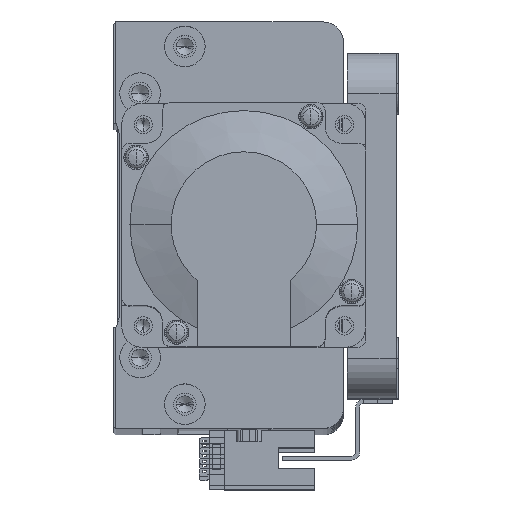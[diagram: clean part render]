
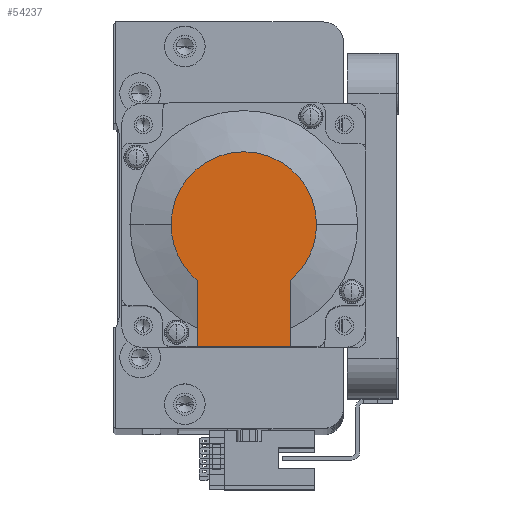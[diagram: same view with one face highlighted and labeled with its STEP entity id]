
A CAD part, top view. The second image highlights one B-rep face of the part: STEP entity #54237.
In plain terms, the highlighted planar face has unit normal (0, 0, 1) as drawn and (-1, 0, 0) by its records, which use the part's own axes.
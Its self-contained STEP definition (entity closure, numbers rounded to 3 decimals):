
#1490 = AXIS2_PLACEMENT_3D ( 'NONE', #38143, #12240, #42498 ) ;
#2588 = CARTESIAN_POINT ( 'NONE',  ( -118.5, -8.941, 0. ) ) ;
#4977 = AXIS2_PLACEMENT_3D ( 'NONE', #14697, #44942, #19008 ) ;
#5153 = EDGE_CURVE ( 'NONE', #52834, #41481, #51758, .T. ) ;
#5860 = CARTESIAN_POINT ( 'NONE',  ( -118.5, 13.735, -11.45 ) ) ;
#6161 = EDGE_CURVE ( 'NONE', #13470, #52834, #47053, .T. ) ;
#6966 = DIRECTION ( 'NONE',  ( 0., 0., 1. ) ) ;
#7502 = CIRCLE ( 'NONE', #1490, 17.881 ) ;
#7762 = CARTESIAN_POINT ( 'NONE',  ( -118.5, 0., 11.45 ) ) ;
#8131 = VECTOR ( 'NONE', #15049, 1000. ) ;
#11266 = EDGE_LOOP ( 'NONE', ( #19621, #49724, #48185, #24311, #19339, #23593 ) ) ;
#12240 = DIRECTION ( 'NONE',  ( -1., 0., 0. ) ) ;
#12566 = AXIS2_PLACEMENT_3D ( 'NONE', #2588, #32861, #6966 ) ;
#12797 = EDGE_CURVE ( 'NONE', #32671, #36151, #50518, .T. ) ;
#13470 = VERTEX_POINT ( 'NONE', #18932 ) ;
#14697 = CARTESIAN_POINT ( 'NONE',  ( -118.5, 0., 0. ) ) ;
#14759 = EDGE_CURVE ( 'NONE', #13470, #32671, #32533, .T. ) ;
#14869 = CIRCLE ( 'NONE', #38211, 17.881 ) ;
#15049 = DIRECTION ( 'NONE',  ( 0., 0., 1. ) ) ;
#18932 = CARTESIAN_POINT ( 'NONE',  ( -118.5, 30., -11.45 ) ) ;
#19008 = DIRECTION ( 'NONE',  ( 0., 0., -1. ) ) ;
#19339 = ORIENTED_EDGE ( 'NONE', *, *, #12797, .F. ) ;
#19621 = ORIENTED_EDGE ( 'NONE', *, *, #6161, .T. ) ;
#20319 = DIRECTION ( 'NONE',  ( -1., 0., 0. ) ) ;
#22258 = CARTESIAN_POINT ( 'NONE',  ( -118.5, 13.735, 11.45 ) ) ;
#23593 = ORIENTED_EDGE ( 'NONE', *, *, #14759, .F. ) ;
#23904 = CARTESIAN_POINT ( 'NONE',  ( -118.5, 30., 25. ) ) ;
#24311 = ORIENTED_EDGE ( 'NONE', *, *, #28487, .T. ) ;
#27433 = CARTESIAN_POINT ( 'NONE',  ( -118.5, 0., 17.881 ) ) ;
#28487 = EDGE_CURVE ( 'NONE', #55633, #36151, #14869, .T. ) ;
#29525 = DIRECTION ( 'NONE',  ( 0., -1., 0. ) ) ;
#32181 = CARTESIAN_POINT ( 'NONE',  ( -118.5, 0., -17.881 ) ) ;
#32533 = LINE ( 'NONE', #23904, #8131 ) ;
#32671 = VERTEX_POINT ( 'NONE', #38490 ) ;
#32861 = DIRECTION ( 'NONE',  ( -1., 0., 0. ) ) ;
#35502 = CARTESIAN_POINT ( 'NONE',  ( -118.5, -8.941, -11.45 ) ) ;
#36151 = VERTEX_POINT ( 'NONE', #22258 ) ;
#38143 = CARTESIAN_POINT ( 'NONE',  ( -118.5, 0., 0. ) ) ;
#38211 = AXIS2_PLACEMENT_3D ( 'NONE', #46255, #20319, #50600 ) ;
#38490 = CARTESIAN_POINT ( 'NONE',  ( -118.5, 30., 11.45 ) ) ;
#39011 = VECTOR ( 'NONE', #29525, 1000. ) ;
#41369 = PLANE ( 'NONE',  #12566 ) ;
#41481 = VERTEX_POINT ( 'NONE', #32181 ) ;
#42498 = DIRECTION ( 'NONE',  ( 0., 0., -1. ) ) ;
#44942 = DIRECTION ( 'NONE',  ( -1., 0., 0. ) ) ;
#46255 = CARTESIAN_POINT ( 'NONE',  ( -118.5, 0., 0. ) ) ;
#47053 = LINE ( 'NONE', #35502, #55868 ) ;
#48185 = ORIENTED_EDGE ( 'NONE', *, *, #55923, .T. ) ;
#48395 = DIRECTION ( 'NONE',  ( 0., -1., 0. ) ) ;
#49724 = ORIENTED_EDGE ( 'NONE', *, *, #5153, .T. ) ;
#50518 = LINE ( 'NONE', #7762, #39011 ) ;
#50600 = DIRECTION ( 'NONE',  ( 0., 0., -1. ) ) ;
#51758 = CIRCLE ( 'NONE', #4977, 17.881 ) ;
#52834 = VERTEX_POINT ( 'NONE', #5860 ) ;
#54237 = ADVANCED_FACE ( 'NONE', ( #55590 ), #41369, .T. ) ;
#55590 = FACE_OUTER_BOUND ( 'NONE', #11266, .T. ) ;
#55633 = VERTEX_POINT ( 'NONE', #27433 ) ;
#55868 = VECTOR ( 'NONE', #48395, 1000. ) ;
#55923 = EDGE_CURVE ( 'NONE', #41481, #55633, #7502, .T. ) ;
